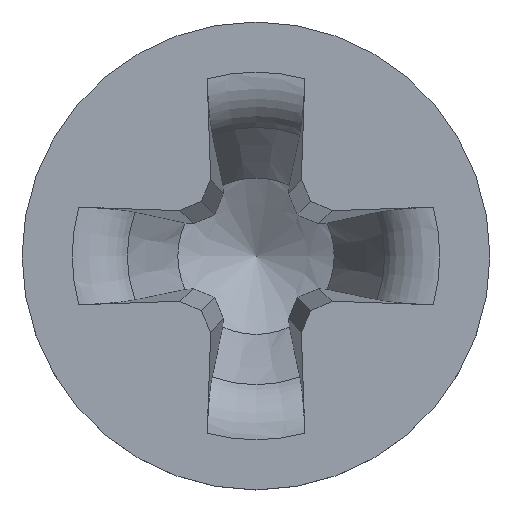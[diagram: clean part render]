
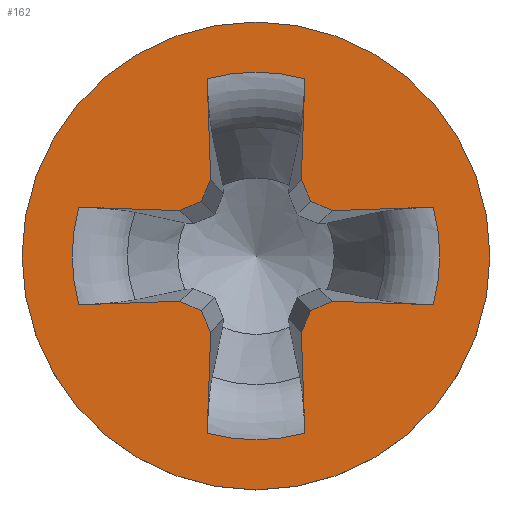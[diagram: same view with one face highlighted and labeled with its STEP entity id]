
A CAD part, top view. The second image highlights one B-rep face of the part: STEP entity #162.
In plain terms, the highlighted planar face has unit normal (0, 0, 1).
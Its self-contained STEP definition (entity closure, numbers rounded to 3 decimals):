
#49=PLANE('',#830);
#68=LINE('',#1235,#104);
#69=LINE('',#1240,#105);
#70=LINE('',#1242,#106);
#71=LINE('',#1244,#107);
#72=LINE('',#1246,#108);
#73=LINE('',#1250,#109);
#74=LINE('',#1252,#110);
#75=LINE('',#1254,#111);
#76=LINE('',#1256,#112);
#77=LINE('',#1260,#113);
#78=LINE('',#1262,#114);
#79=LINE('',#1264,#115);
#80=LINE('',#1266,#116);
#81=LINE('',#1270,#117);
#82=LINE('',#1272,#118);
#83=LINE('',#1274,#119);
#104=VECTOR('',#892,1.);
#105=VECTOR('',#895,1.);
#106=VECTOR('',#896,1.);
#107=VECTOR('',#897,1.);
#108=VECTOR('',#898,1.);
#109=VECTOR('',#901,1.);
#110=VECTOR('',#902,1.);
#111=VECTOR('',#903,1.);
#112=VECTOR('',#904,1.);
#113=VECTOR('',#907,1.);
#114=VECTOR('',#908,1.);
#115=VECTOR('',#909,1.);
#116=VECTOR('',#910,1.);
#117=VECTOR('',#913,1.);
#118=VECTOR('',#914,1.);
#119=VECTOR('',#915,1.);
#148=FACE_BOUND('',#258,.T.);
#149=FACE_BOUND('',#259,.T.);
#162=ADVANCED_FACE('',(#148,#149),#49,.F.);
#258=EDGE_LOOP('',(#342));
#259=EDGE_LOOP('',(#343,#344,#345,#346,#347,#348,#349,#350,#351,#352,#353,
#354,#355,#356,#357,#358,#359,#360,#361,#362));
#311=CIRCLE('',#825,1.9);
#312=CIRCLE('',#826,1.493);
#313=CIRCLE('',#827,1.493);
#314=CIRCLE('',#828,1.493);
#315=CIRCLE('',#829,1.493);
#342=ORIENTED_EDGE('',*,*,#654,.T.);
#343=ORIENTED_EDGE('',*,*,#655,.F.);
#344=ORIENTED_EDGE('',*,*,#656,.T.);
#345=ORIENTED_EDGE('',*,*,#657,.F.);
#346=ORIENTED_EDGE('',*,*,#658,.F.);
#347=ORIENTED_EDGE('',*,*,#659,.F.);
#348=ORIENTED_EDGE('',*,*,#660,.F.);
#349=ORIENTED_EDGE('',*,*,#661,.T.);
#350=ORIENTED_EDGE('',*,*,#662,.F.);
#351=ORIENTED_EDGE('',*,*,#663,.F.);
#352=ORIENTED_EDGE('',*,*,#664,.F.);
#353=ORIENTED_EDGE('',*,*,#665,.F.);
#354=ORIENTED_EDGE('',*,*,#666,.T.);
#355=ORIENTED_EDGE('',*,*,#667,.F.);
#356=ORIENTED_EDGE('',*,*,#668,.F.);
#357=ORIENTED_EDGE('',*,*,#669,.F.);
#358=ORIENTED_EDGE('',*,*,#670,.F.);
#359=ORIENTED_EDGE('',*,*,#671,.T.);
#360=ORIENTED_EDGE('',*,*,#672,.F.);
#361=ORIENTED_EDGE('',*,*,#673,.F.);
#362=ORIENTED_EDGE('',*,*,#674,.F.);
#574=VERTEX_POINT('',#1234);
#575=VERTEX_POINT('',#1236);
#576=VERTEX_POINT('',#1237);
#577=VERTEX_POINT('',#1239);
#578=VERTEX_POINT('',#1241);
#579=VERTEX_POINT('',#1243);
#580=VERTEX_POINT('',#1245);
#581=VERTEX_POINT('',#1247);
#582=VERTEX_POINT('',#1249);
#583=VERTEX_POINT('',#1251);
#584=VERTEX_POINT('',#1253);
#585=VERTEX_POINT('',#1255);
#586=VERTEX_POINT('',#1257);
#587=VERTEX_POINT('',#1259);
#588=VERTEX_POINT('',#1261);
#589=VERTEX_POINT('',#1263);
#590=VERTEX_POINT('',#1265);
#591=VERTEX_POINT('',#1267);
#592=VERTEX_POINT('',#1269);
#593=VERTEX_POINT('',#1271);
#594=VERTEX_POINT('',#1273);
#654=EDGE_CURVE('',#574,#574,#311,.T.);
#655=EDGE_CURVE('',#575,#576,#68,.T.);
#656=EDGE_CURVE('',#575,#577,#312,.T.);
#657=EDGE_CURVE('',#578,#577,#69,.T.);
#658=EDGE_CURVE('',#579,#578,#70,.T.);
#659=EDGE_CURVE('',#580,#579,#71,.T.);
#660=EDGE_CURVE('',#581,#580,#72,.T.);
#661=EDGE_CURVE('',#581,#582,#313,.T.);
#662=EDGE_CURVE('',#583,#582,#73,.T.);
#663=EDGE_CURVE('',#584,#583,#74,.T.);
#664=EDGE_CURVE('',#585,#584,#75,.T.);
#665=EDGE_CURVE('',#586,#585,#76,.T.);
#666=EDGE_CURVE('',#586,#587,#314,.T.);
#667=EDGE_CURVE('',#588,#587,#77,.T.);
#668=EDGE_CURVE('',#589,#588,#78,.T.);
#669=EDGE_CURVE('',#590,#589,#79,.T.);
#670=EDGE_CURVE('',#591,#590,#80,.T.);
#671=EDGE_CURVE('',#591,#592,#315,.T.);
#672=EDGE_CURVE('',#593,#592,#81,.T.);
#673=EDGE_CURVE('',#594,#593,#82,.T.);
#674=EDGE_CURVE('',#576,#594,#83,.T.);
#825=AXIS2_PLACEMENT_3D('',#1233,#890,#891);
#826=AXIS2_PLACEMENT_3D('',#1238,#893,#894);
#827=AXIS2_PLACEMENT_3D('',#1248,#899,#900);
#828=AXIS2_PLACEMENT_3D('',#1258,#905,#906);
#829=AXIS2_PLACEMENT_3D('',#1268,#911,#912);
#830=AXIS2_PLACEMENT_3D('',#1275,#916,#917);
#890=DIRECTION('',(0.,0.,1.));
#891=DIRECTION('',(1.,0.,0.));
#892=DIRECTION('',(-0.999,-0.035,0.));
#893=DIRECTION('',(0.,0.,-1.));
#894=DIRECTION('',(-1.,0.,0.));
#895=DIRECTION('',(0.999,-0.035,0.));
#896=DIRECTION('',(0.914,0.407,0.));
#897=DIRECTION('',(0.407,0.914,0.));
#898=DIRECTION('',(-0.035,0.999,0.));
#899=DIRECTION('',(0.,0.,-1.));
#900=DIRECTION('',(-1.,0.,0.));
#901=DIRECTION('',(-0.035,-0.999,0.));
#902=DIRECTION('',(0.407,-0.914,0.));
#903=DIRECTION('',(0.914,-0.407,0.));
#904=DIRECTION('',(0.999,0.035,0.));
#905=DIRECTION('',(0.,0.,-1.));
#906=DIRECTION('',(-1.,0.,0.));
#907=DIRECTION('',(-0.999,0.035,0.));
#908=DIRECTION('',(-0.914,-0.407,0.));
#909=DIRECTION('',(-0.407,-0.914,0.));
#910=DIRECTION('',(0.035,-0.999,0.));
#911=DIRECTION('',(0.,0.,-1.));
#912=DIRECTION('',(-1.,0.,0.));
#913=DIRECTION('',(0.035,0.999,0.));
#914=DIRECTION('',(-0.407,0.914,0.));
#915=DIRECTION('',(-0.914,0.407,0.));
#916=DIRECTION('',(0.,0.,-1.));
#917=DIRECTION('',(-1.,0.,0.));
#1233=CARTESIAN_POINT('',(0.,0.,1.5));
#1234=CARTESIAN_POINT('',(1.9,0.,1.5));
#1235=CARTESIAN_POINT('',(0.054,0.348,1.5));
#1236=CARTESIAN_POINT('',(1.439,0.396,1.5));
#1237=CARTESIAN_POINT('',(0.619,0.368,1.5));
#1238=CARTESIAN_POINT('',(0.,0.,1.5));
#1239=CARTESIAN_POINT('',(1.439,-0.396,1.5));
#1240=CARTESIAN_POINT('',(-0.078,-0.343,1.5));
#1241=CARTESIAN_POINT('',(0.619,-0.368,1.5));
#1242=CARTESIAN_POINT('',(0.945,-0.223,1.5));
#1243=CARTESIAN_POINT('',(0.445,-0.445,1.5));
#1244=CARTESIAN_POINT('',(1.243,1.347,1.5));
#1245=CARTESIAN_POINT('',(0.368,-0.619,1.5));
#1246=CARTESIAN_POINT('',(0.28,1.91,1.5));
#1247=CARTESIAN_POINT('',(0.396,-1.439,1.5));
#1248=CARTESIAN_POINT('',(0.,0.,1.5));
#1249=CARTESIAN_POINT('',(-0.396,-1.439,1.5));
#1250=CARTESIAN_POINT('',(-0.28,1.91,1.5));
#1251=CARTESIAN_POINT('',(-0.368,-0.619,1.5));
#1252=CARTESIAN_POINT('',(-1.243,1.347,1.5));
#1253=CARTESIAN_POINT('',(-0.445,-0.445,1.5));
#1254=CARTESIAN_POINT('',(-0.945,-0.223,1.5));
#1255=CARTESIAN_POINT('',(-0.619,-0.368,1.5));
#1256=CARTESIAN_POINT('',(0.078,-0.343,1.5));
#1257=CARTESIAN_POINT('',(-1.439,-0.396,1.5));
#1258=CARTESIAN_POINT('',(0.,0.,1.5));
#1259=CARTESIAN_POINT('',(-1.439,0.396,1.5));
#1260=CARTESIAN_POINT('',(-0.054,0.348,1.5));
#1261=CARTESIAN_POINT('',(-0.619,0.368,1.5));
#1262=CARTESIAN_POINT('',(0.467,0.851,1.5));
#1263=CARTESIAN_POINT('',(-0.445,0.445,1.5));
#1264=CARTESIAN_POINT('',(0.169,1.825,1.5));
#1265=CARTESIAN_POINT('',(-0.368,0.619,1.5));
#1266=CARTESIAN_POINT('',(-0.412,1.886,1.5));
#1267=CARTESIAN_POINT('',(-0.396,1.439,1.5));
#1268=CARTESIAN_POINT('',(0.,0.,1.5));
#1269=CARTESIAN_POINT('',(0.396,1.439,1.5));
#1270=CARTESIAN_POINT('',(0.412,1.886,1.5));
#1271=CARTESIAN_POINT('',(0.368,0.619,1.5));
#1272=CARTESIAN_POINT('',(-0.169,1.825,1.5));
#1273=CARTESIAN_POINT('',(0.445,0.445,1.5));
#1274=CARTESIAN_POINT('',(-0.467,0.851,1.5));
#1275=CARTESIAN_POINT('',(0.,1.9,1.5));
